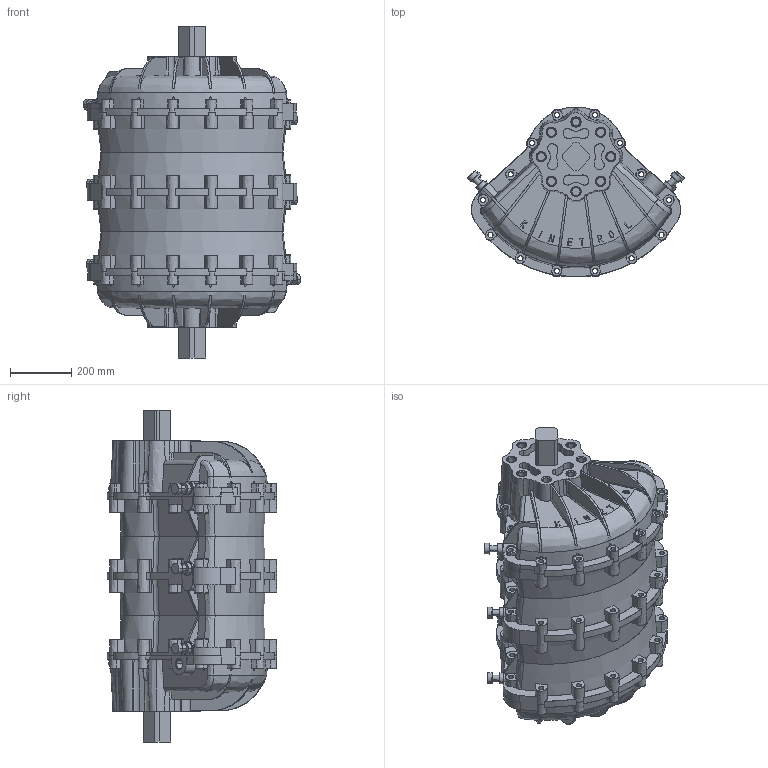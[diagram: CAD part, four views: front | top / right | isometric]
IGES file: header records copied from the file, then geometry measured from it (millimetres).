
Start section: Comment
Global section: file name: 300-100.igs; native system:  By Spatial Corp.; preprocessor: XPlus GENERIC/IGES 3.0; author: Author; organization: Title; date: 20050420.094137; units: inch
Bounding box: 708.52 x 551.95 x 1080.5 mm (x, y, z)
Surface area: 3002673.5 mm2 (no closed solid volume)
Topology: 0 solids, 0 shells, 1695 faces, 9712 edges, 9712 vertices
Faces by surface type: bspline 1695
